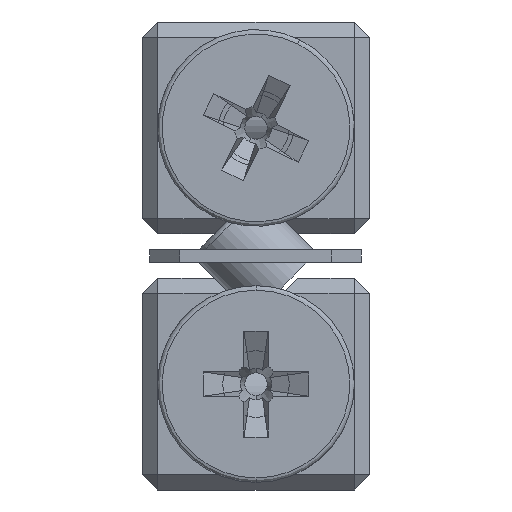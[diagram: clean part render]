
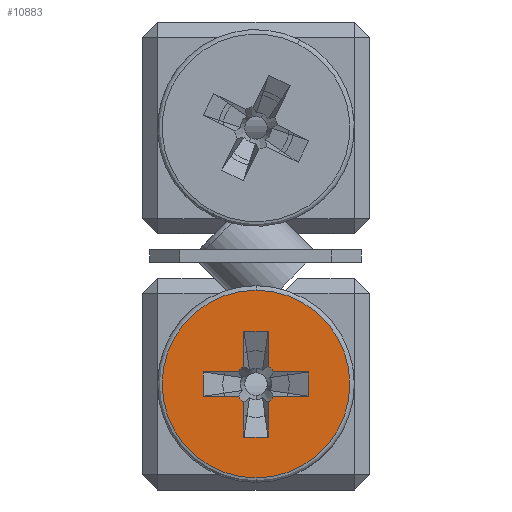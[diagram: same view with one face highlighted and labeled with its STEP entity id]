
A CAD part, left-side view. The second image highlights one B-rep face of the part: STEP entity #10883.
In plain terms, the highlighted planar face has unit normal (-1, 0, 0).
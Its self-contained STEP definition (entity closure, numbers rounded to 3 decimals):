
#266 = CIRCLE ( 'NONE', #20203, 1.42 ) ;
#269 = CIRCLE ( 'NONE', #20204, 1.42 ) ;
#270 = CIRCLE ( 'NONE', #20205, 6.2 ) ;
#284 = LINE ( 'NONE', #3364, #290 ) ;
#285 = LINE ( 'NONE', #3288, #288 ) ;
#288 = VECTOR ( 'NONE', #3300, 1000. ) ;
#290 = VECTOR ( 'NONE', #3291, 1000. ) ;
#291 = LINE ( 'NONE', #3318, #294 ) ;
#294 = VECTOR ( 'NONE', #3312, 1000. ) ;
#295 = LINE ( 'NONE', #3284, #298 ) ;
#297 = LINE ( 'NONE', #3294, #300 ) ;
#298 = VECTOR ( 'NONE', #3277, 1000. ) ;
#300 = VECTOR ( 'NONE', #3297, 1000. ) ;
#302 = LINE ( 'NONE', #3283, #304 ) ;
#304 = VECTOR ( 'NONE', #3289, 1000. ) ;
#306 = LINE ( 'NONE', #3316, #307 ) ;
#307 = VECTOR ( 'NONE', #3421, 1000. ) ;
#308 = LINE ( 'NONE', #3375, #310 ) ;
#309 = LINE ( 'NONE', #3399, #316 ) ;
#310 = VECTOR ( 'NONE', #3384, 1000. ) ;
#311 = LINE ( 'NONE', #3366, #314 ) ;
#314 = VECTOR ( 'NONE', #3388, 1000. ) ;
#316 = VECTOR ( 'NONE', #3381, 1000. ) ;
#320 = CIRCLE ( 'NONE', #14461, 6.2 ) ;
#321 = LINE ( 'NONE', #3349, #323 ) ;
#322 = LINE ( 'NONE', #3408, #325 ) ;
#323 = VECTOR ( 'NONE', #3348, 1000. ) ;
#324 = CIRCLE ( 'NONE', #14462, 1.42 ) ;
#325 = VECTOR ( 'NONE', #3418, 1000. ) ;
#326 = CIRCLE ( 'NONE', #14463, 1.42 ) ;
#807 = FACE_OUTER_BOUND ( 'NONE', #20464, .T. ) ;
#854 = ORIENTED_EDGE ( 'NONE', *, *, #4565, .T. ) ;
#886 = ORIENTED_EDGE ( 'NONE', *, *, #4562, .T. ) ;
#887 = ORIENTED_EDGE ( 'NONE', *, *, #4547, .F. ) ;
#892 = ORIENTED_EDGE ( 'NONE', *, *, #4577, .F. ) ;
#950 = ORIENTED_EDGE ( 'NONE', *, *, #4575, .T. ) ;
#951 = ORIENTED_EDGE ( 'NONE', *, *, #4590, .F. ) ;
#952 = ORIENTED_EDGE ( 'NONE', *, *, #4579, .T. ) ;
#953 = ORIENTED_EDGE ( 'NONE', *, *, #4568, .F. ) ;
#995 = ORIENTED_EDGE ( 'NONE', *, *, #4563, .F. ) ;
#1008 = ORIENTED_EDGE ( 'NONE', *, *, #4567, .T. ) ;
#1014 = ORIENTED_EDGE ( 'NONE', *, *, #4571, .T. ) ;
#1039 = ORIENTED_EDGE ( 'NONE', *, *, #4587, .F. ) ;
#1040 = ORIENTED_EDGE ( 'NONE', *, *, #4551, .T. ) ;
#1041 = ORIENTED_EDGE ( 'NONE', *, *, #4586, .T. ) ;
#1042 = ORIENTED_EDGE ( 'NONE', *, *, #4543, .F. ) ;
#1043 = ORIENTED_EDGE ( 'NONE', *, *, #4581, .T. ) ;
#1048 = ORIENTED_EDGE ( 'NONE', *, *, #4589, .F. ) ;
#1049 = ORIENTED_EDGE ( 'NONE', *, *, #4588, .T. ) ;
#1250 = VERTEX_POINT ( 'NONE', #18040 ) ;
#1251 = VERTEX_POINT ( 'NONE', #18049 ) ;
#1259 = VERTEX_POINT ( 'NONE', #18384 ) ;
#1260 = VERTEX_POINT ( 'NONE', #18313 ) ;
#1261 = VERTEX_POINT ( 'NONE', #18235 ) ;
#1262 = VERTEX_POINT ( 'NONE', #18034 ) ;
#1263 = VERTEX_POINT ( 'NONE', #18312 ) ;
#1265 = VERTEX_POINT ( 'NONE', #18077 ) ;
#1268 = VERTEX_POINT ( 'NONE', #18136 ) ;
#1269 = VERTEX_POINT ( 'NONE', #18131 ) ;
#1271 = VERTEX_POINT ( 'NONE', #18044 ) ;
#1274 = VERTEX_POINT ( 'NONE', #18055 ) ;
#1275 = VERTEX_POINT ( 'NONE', #18046 ) ;
#1277 = VERTEX_POINT ( 'NONE', #18047 ) ;
#1279 = VERTEX_POINT ( 'NONE', #18052 ) ;
#1282 = VERTEX_POINT ( 'NONE', #18068 ) ;
#1286 = VERTEX_POINT ( 'NONE', #18078 ) ;
#1289 = VERTEX_POINT ( 'NONE', #18085 ) ;
#3277 = DIRECTION ( 'NONE',  ( 0., 0., -1. ) ) ;
#3283 = CARTESIAN_POINT ( 'NONE',  ( -230.886, 65.567, -3.5 ) ) ;
#3284 = CARTESIAN_POINT ( 'NONE',  ( -230.886, 63.967, 3.5 ) ) ;
#3288 = CARTESIAN_POINT ( 'NONE',  ( -230.886, 61.267, -0.8 ) ) ;
#3289 = DIRECTION ( 'NONE',  ( 0., 0., 1. ) ) ;
#3291 = DIRECTION ( 'NONE',  ( 0., 0., 1. ) ) ;
#3293 = CARTESIAN_POINT ( 'NONE',  ( -230.886, 64.767, 0. ) ) ;
#3294 = CARTESIAN_POINT ( 'NONE',  ( -230.886, 63.967, 3.5 ) ) ;
#3297 = DIRECTION ( 'NONE',  ( 0., 1., 0. ) ) ;
#3300 = DIRECTION ( 'NONE',  ( 0., 1., 0. ) ) ;
#3304 = DIRECTION ( 'NONE',  ( -1., 0., 0. ) ) ;
#3309 = CARTESIAN_POINT ( 'NONE',  ( -230.886, 64.767, 0. ) ) ;
#3312 = DIRECTION ( 'NONE',  ( 0., -1., 0. ) ) ;
#3315 = DIRECTION ( 'NONE',  ( -1., 0., 0. ) ) ;
#3316 = CARTESIAN_POINT ( 'NONE',  ( -230.886, 68.267, 0.8 ) ) ;
#3318 = CARTESIAN_POINT ( 'NONE',  ( -230.886, 68.267, 0.8 ) ) ;
#3321 = DIRECTION ( 'NONE',  ( 0., 0., 1. ) ) ;
#3343 = DIRECTION ( 'NONE',  ( 0., 0., 1. ) ) ;
#3348 = DIRECTION ( 'NONE',  ( 0., -1., 0. ) ) ;
#3349 = CARTESIAN_POINT ( 'NONE',  ( -230.886, 65.567, -3.5 ) ) ;
#3355 = DIRECTION ( 'NONE',  ( -1., 0., 0. ) ) ;
#3364 = CARTESIAN_POINT ( 'NONE',  ( -230.886, 61.267, -0.8 ) ) ;
#3366 = CARTESIAN_POINT ( 'NONE',  ( -230.886, 61.267, -0.8 ) ) ;
#3375 = CARTESIAN_POINT ( 'NONE',  ( -230.886, 68.267, 0.8 ) ) ;
#3381 = DIRECTION ( 'NONE',  ( 0., 0., -1. ) ) ;
#3384 = DIRECTION ( 'NONE',  ( 0., 0., -1. ) ) ;
#3386 = DIRECTION ( 'NONE',  ( 0., 0., -1. ) ) ;
#3388 = DIRECTION ( 'NONE',  ( 0., 1., 0. ) ) ;
#3399 = CARTESIAN_POINT ( 'NONE',  ( -230.886, 63.967, 3.5 ) ) ;
#3407 = CARTESIAN_POINT ( 'NONE',  ( -230.886, 64.767, 0. ) ) ;
#3408 = CARTESIAN_POINT ( 'NONE',  ( -230.886, 65.567, -3.5 ) ) ;
#3418 = DIRECTION ( 'NONE',  ( 0., 0., 1. ) ) ;
#3421 = DIRECTION ( 'NONE',  ( 0., -1., 0. ) ) ;
#4543 = EDGE_CURVE ( 'NONE', #1274, #1279, #266, .T. ) ;
#4547 = EDGE_CURVE ( 'NONE', #1277, #1282, #269, .T. ) ;
#4551 = EDGE_CURVE ( 'NONE', #1286, #1289, #270, .T. ) ;
#4562 = EDGE_CURVE ( 'NONE', #1268, #1279, #285, .T. ) ;
#4563 = EDGE_CURVE ( 'NONE', #1268, #1269, #284, .T. ) ;
#4565 = EDGE_CURVE ( 'NONE', #1277, #1269, #291, .T. ) ;
#4567 = EDGE_CURVE ( 'NONE', #1275, #1282, #295, .T. ) ;
#4568 = EDGE_CURVE ( 'NONE', #1275, #1251, #297, .T. ) ;
#4571 = EDGE_CURVE ( 'NONE', #1271, #1251, #302, .T. ) ;
#4575 = EDGE_CURVE ( 'NONE', #1265, #1260, #306, .T. ) ;
#4577 = EDGE_CURVE ( 'NONE', #1265, #1259, #308, .T. ) ;
#4579 = EDGE_CURVE ( 'NONE', #1263, #1259, #311, .T. ) ;
#4581 = EDGE_CURVE ( 'NONE', #1274, #1262, #309, .T. ) ;
#4586 = EDGE_CURVE ( 'NONE', #1289, #1286, #320, .T. ) ;
#4587 = EDGE_CURVE ( 'NONE', #1261, #1262, #321, .T. ) ;
#4588 = EDGE_CURVE ( 'NONE', #1261, #1250, #322, .T. ) ;
#4589 = EDGE_CURVE ( 'NONE', #1263, #1250, #324, .T. ) ;
#4590 = EDGE_CURVE ( 'NONE', #1271, #1260, #326, .T. ) ;
#4823 = EDGE_LOOP ( 'NONE', ( #1042, #1043, #1039, #1049, #1048, #952, #892, #950, #951, #1014, #953, #1008, #887, #854, #995, #886 ) ) ;
#5268 = DIRECTION ( 'NONE',  ( 0., 0., -1. ) ) ;
#5269 = DIRECTION ( 'NONE',  ( -1., 0., 0. ) ) ;
#5271 = CARTESIAN_POINT ( 'NONE',  ( -230.886, 64.767, 0. ) ) ;
#5290 = DIRECTION ( 'NONE',  ( 0., 0., 1. ) ) ;
#5294 = CARTESIAN_POINT ( 'NONE',  ( -230.886, 64.767, 0. ) ) ;
#5309 = DIRECTION ( 'NONE',  ( -1., 0., 0. ) ) ;
#5442 = DIRECTION ( 'NONE',  ( 0., 0., 1. ) ) ;
#5454 = DIRECTION ( 'NONE',  ( -1., 0., 0. ) ) ;
#5461 = CARTESIAN_POINT ( 'NONE',  ( -230.886, 64.767, 0. ) ) ;
#6107 = FACE_BOUND ( 'NONE', #4823, .T. ) ;
#10085 = CARTESIAN_POINT ( 'NONE',  ( -230.886, 71.267, 0. ) ) ;
#10086 = PLANE ( 'NONE',  #14646 ) ;
#10091 = DIRECTION ( 'NONE',  ( 1., 0., 0. ) ) ;
#10092 = DIRECTION ( 'NONE',  ( 0., 0., -1. ) ) ;
#10883 = ADVANCED_FACE ( 'NONE', ( #807, #6107 ), #10086, .F. ) ;
#14461 = AXIS2_PLACEMENT_3D ( 'NONE', #3407, #3355, #3386 ) ;
#14462 = AXIS2_PLACEMENT_3D ( 'NONE', #3309, #3315, #3321 ) ;
#14463 = AXIS2_PLACEMENT_3D ( 'NONE', #3293, #3304, #3343 ) ;
#14646 = AXIS2_PLACEMENT_3D ( 'NONE', #10085, #10091, #10092 ) ;
#18034 = CARTESIAN_POINT ( 'NONE',  ( -230.886, 63.967, -3.5 ) ) ;
#18040 = CARTESIAN_POINT ( 'NONE',  ( -230.886, 65.567, -1.173 ) ) ;
#18044 = CARTESIAN_POINT ( 'NONE',  ( -230.886, 65.567, 1.173 ) ) ;
#18046 = CARTESIAN_POINT ( 'NONE',  ( -230.886, 63.967, 3.5 ) ) ;
#18047 = CARTESIAN_POINT ( 'NONE',  ( -230.886, 63.594, 0.8 ) ) ;
#18049 = CARTESIAN_POINT ( 'NONE',  ( -230.886, 65.567, 3.5 ) ) ;
#18052 = CARTESIAN_POINT ( 'NONE',  ( -230.886, 63.594, -0.8 ) ) ;
#18055 = CARTESIAN_POINT ( 'NONE',  ( -230.886, 63.967, -1.173 ) ) ;
#18068 = CARTESIAN_POINT ( 'NONE',  ( -230.886, 63.967, 1.173 ) ) ;
#18077 = CARTESIAN_POINT ( 'NONE',  ( -230.886, 68.267, 0.8 ) ) ;
#18078 = CARTESIAN_POINT ( 'NONE',  ( -230.886, 64.767, 6.2 ) ) ;
#18085 = CARTESIAN_POINT ( 'NONE',  ( -230.886, 64.767, -6.2 ) ) ;
#18131 = CARTESIAN_POINT ( 'NONE',  ( -230.886, 61.267, 0.8 ) ) ;
#18136 = CARTESIAN_POINT ( 'NONE',  ( -230.886, 61.267, -0.8 ) ) ;
#18235 = CARTESIAN_POINT ( 'NONE',  ( -230.886, 65.567, -3.5 ) ) ;
#18312 = CARTESIAN_POINT ( 'NONE',  ( -230.886, 65.94, -0.8 ) ) ;
#18313 = CARTESIAN_POINT ( 'NONE',  ( -230.886, 65.94, 0.8 ) ) ;
#18384 = CARTESIAN_POINT ( 'NONE',  ( -230.886, 68.267, -0.8 ) ) ;
#20203 = AXIS2_PLACEMENT_3D ( 'NONE', #5461, #5454, #5442 ) ;
#20204 = AXIS2_PLACEMENT_3D ( 'NONE', #5294, #5309, #5290 ) ;
#20205 = AXIS2_PLACEMENT_3D ( 'NONE', #5271, #5269, #5268 ) ;
#20464 = EDGE_LOOP ( 'NONE', ( #1041, #1040 ) ) ;
